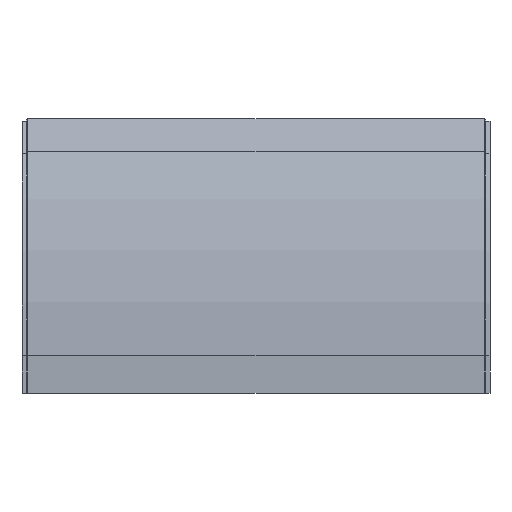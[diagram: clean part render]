
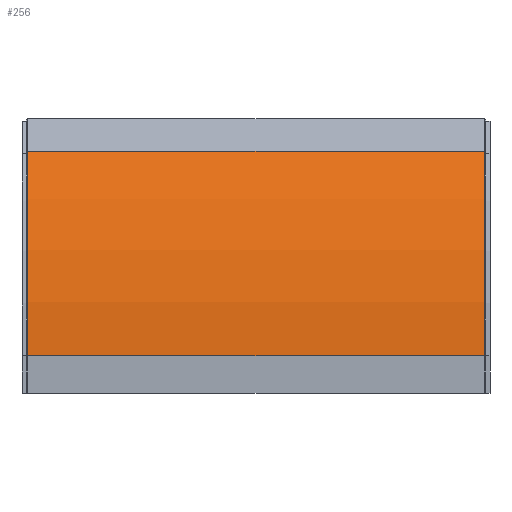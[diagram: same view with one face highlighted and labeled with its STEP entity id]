
A CAD part, front view. The second image highlights one B-rep face of the part: STEP entity #256.
In plain terms, the highlighted cylindrical face has radius 568.25 mm (diameter 1136.5 mm), a partial arc.
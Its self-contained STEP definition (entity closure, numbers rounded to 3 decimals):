
#39 = CARTESIAN_POINT ( 'NONE',  ( -317.5, 7.881, 336.625 ) ) ;
#45 = LINE ( 'NONE', #329, #1151 ) ;
#78 = LINE ( 'NONE', #1012, #1249 ) ;
#84 = ORIENTED_EDGE ( 'NONE', *, *, #224, .T. ) ;
#85 = DIRECTION ( 'NONE',  ( 0., 0., 1. ) ) ;
#94 = VERTEX_POINT ( 'NONE', #183 ) ;
#106 = CARTESIAN_POINT ( 'NONE',  ( -317.5, 500., 52.5 ) ) ;
#107 = AXIS2_PLACEMENT_3D ( 'NONE', #707, #184, #85 ) ;
#138 = VERTEX_POINT ( 'NONE', #771 ) ;
#183 = CARTESIAN_POINT ( 'NONE',  ( 317.5, 7.881, 336.625 ) ) ;
#184 = DIRECTION ( 'NONE',  ( -1., 0., 0. ) ) ;
#185 = EDGE_CURVE ( 'NONE', #186, #438, #680, .T. ) ;
#186 = VERTEX_POINT ( 'NONE', #1200 ) ;
#196 = EDGE_LOOP ( 'NONE', ( #84, #971, #445, #306 ) ) ;
#217 = DIRECTION ( 'NONE',  ( 0., 0., 1. ) ) ;
#224 = EDGE_CURVE ( 'NONE', #186, #138, #45, .T. ) ;
#256 = ADVANCED_FACE ( 'NONE', ( #280 ), #1138, .T. ) ;
#280 = FACE_OUTER_BOUND ( 'NONE', #196, .T. ) ;
#306 = ORIENTED_EDGE ( 'NONE', *, *, #185, .F. ) ;
#329 = CARTESIAN_POINT ( 'NONE',  ( -317.5, -68.25, 52.5 ) ) ;
#336 = DIRECTION ( 'NONE',  ( -1., 0., 0. ) ) ;
#438 = VERTEX_POINT ( 'NONE', #39 ) ;
#445 = ORIENTED_EDGE ( 'NONE', *, *, #1014, .F. ) ;
#526 = DIRECTION ( 'NONE',  ( -1., 0., 0. ) ) ;
#538 = DIRECTION ( 'NONE',  ( 1., 0., 0. ) ) ;
#680 = CIRCLE ( 'NONE', #1274, 568.25 ) ;
#707 = CARTESIAN_POINT ( 'NONE',  ( 0., 500., 52.5 ) ) ;
#754 = CARTESIAN_POINT ( 'NONE',  ( 317.5, 500., 52.5 ) ) ;
#771 = CARTESIAN_POINT ( 'NONE',  ( 317.5, -68.25, 52.5 ) ) ;
#792 = AXIS2_PLACEMENT_3D ( 'NONE', #754, #526, #849 ) ;
#849 = DIRECTION ( 'NONE',  ( 0., 0., 1. ) ) ;
#971 = ORIENTED_EDGE ( 'NONE', *, *, #1193, .T. ) ;
#1012 = CARTESIAN_POINT ( 'NONE',  ( -317.5, 7.881, 336.625 ) ) ;
#1014 = EDGE_CURVE ( 'NONE', #438, #94, #78, .T. ) ;
#1017 = DIRECTION ( 'NONE',  ( 1., 0., 0. ) ) ;
#1138 = CYLINDRICAL_SURFACE ( 'NONE', #107, 568.25 ) ;
#1151 = VECTOR ( 'NONE', #538, 1000. ) ;
#1193 = EDGE_CURVE ( 'NONE', #138, #94, #1377, .T. ) ;
#1200 = CARTESIAN_POINT ( 'NONE',  ( -317.5, -68.25, 52.5 ) ) ;
#1249 = VECTOR ( 'NONE', #1017, 1000. ) ;
#1274 = AXIS2_PLACEMENT_3D ( 'NONE', #106, #336, #217 ) ;
#1377 = CIRCLE ( 'NONE', #792, 568.25 ) ;
